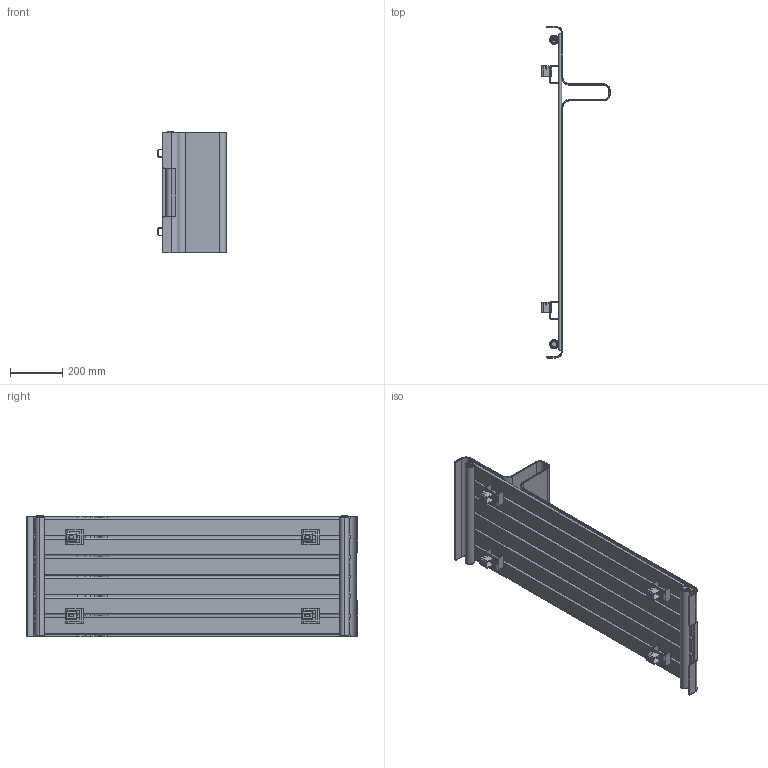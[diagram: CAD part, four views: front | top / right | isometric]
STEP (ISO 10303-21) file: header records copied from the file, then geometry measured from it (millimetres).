
FILE_DESCRIPTION (( 'STEP AP203' ), '1' );
FILE_NAME ('FREB12460SV.STEP', '2026-03-04T14:27:54', ( '' ), ( '' ), 'SwSTEP 2.0', 'SolidWorks 2025', '' );
FILE_SCHEMA (( 'CONFIG_CONTROL_DESIGN' ));
Length unit declared in the file: millimetre
Products named in the file (9): SUPPORTO A SALDARE_B; tappo_sx.prt; COLLETTORE INT 75 [Con configurazioni]_455; ZANCA-FISSAGGIO; tappo_sfiato.prt; FREB12460SV; TRAVERSINO PIATTO 70 [Con configurazioni]_1210; SUPPORTO; COPERTURA H1265
Assembly tree (17 placements, depth 3):
  FREB12460SV
    COLLETTORE INT 75 [Con configurazioni]_455  x2
    TRAVERSINO PIATTO 70 [Con configurazioni]_1210  x6
    COPERTURA H1265
    tappo_sx.prt
    tappo_sfiato.prt
    SUPPORTO A SALDARE_B  x4
      ZANCA-FISSAGGIO
      SUPPORTO
Bounding box: 260.5 x 1265 x 463.5 mm (x, y, z)
Volume: 5643812.7 mm3; surface area: 3981892 mm2
Topology: 17 solids, 21 shells, 1039 faces, 2760 edges, 1737 vertices
Faces by surface type: plane 502, cylinder 328, cone 98, torus 62, bspline 49
Entity records: 24953 total; most frequent: CARTESIAN_POINT 13558, ORIENTED_EDGE 2338, DIRECTION 1821, EDGE_CURVE 1173, VERTEX_POINT 723, AXIS2_PLACEMENT_3D 701, EDGE_LOOP 475, B_SPLINE_CURVE_WITH_KNOTS 471
